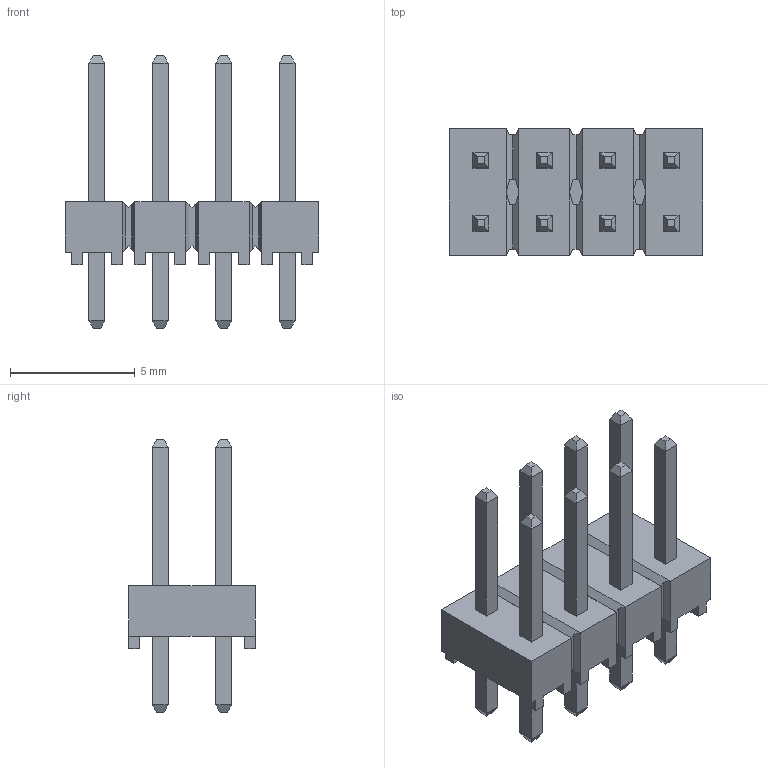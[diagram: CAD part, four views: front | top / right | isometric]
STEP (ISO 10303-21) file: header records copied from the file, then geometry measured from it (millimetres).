
FILE_DESCRIPTION(('FreeCAD Model'),'2;1');
FILE_NAME('C:/Users/cr185092/Documents/KiCAD_Projects/VORON_V2.0_Expander_option2/VORON_V2.0.pretty/3D_Models\PIN_HEADER_TOP_2x4.step', '2017-11-19T12:52:43',('kicad StepUp'),('ksu MCAD'), 'Open CASCADE STEP processor 6.8','FreeCAD','Unknown');
FILE_SCHEMA(('AUTOMOTIVE_DESIGN_CC2 { 1 2 10303 214 -1 1 5 4 }'));
Length unit declared in the file: millimetre
Products named in the file (1): PIN_HEADER_TOP_2x4
Bounding box: 10.16 x 5.08 x 10.92 mm (x, y, z)
Volume: 129.4 mm3; surface area: 372.6 mm2
Topology: 1 solids, 1 shells, 310 faces, 752 edges, 460 vertices
Faces by surface type: plane 310
Entity records: 10887 total; most frequent: CARTESIAN_POINT 1523, ORIENTED_EDGE 1504, DIRECTION 1374, EDGE_CURVE 752, LINE 752, VECTOR 752, VERTEX_POINT 460, FACE_BOUND 326
